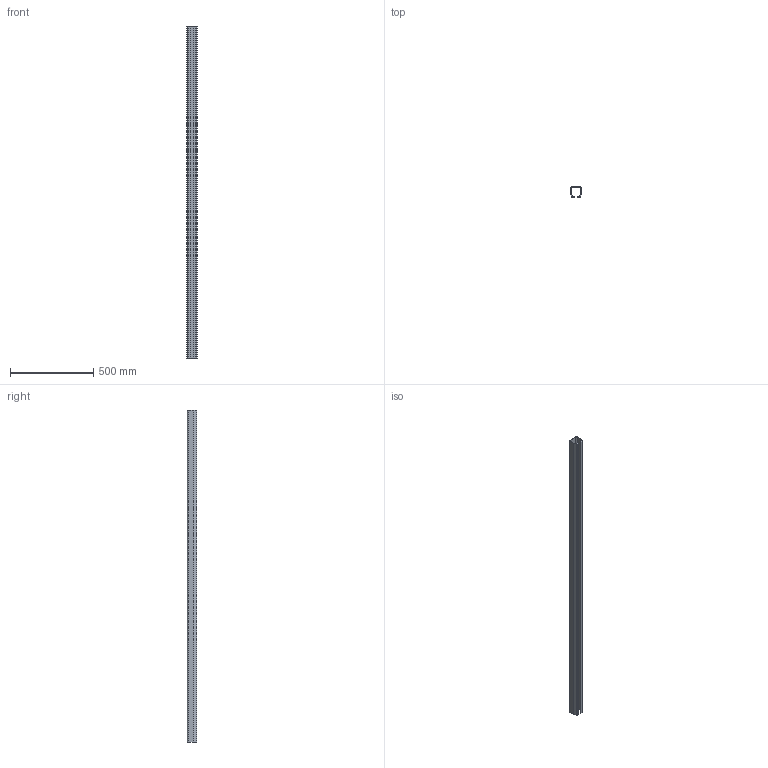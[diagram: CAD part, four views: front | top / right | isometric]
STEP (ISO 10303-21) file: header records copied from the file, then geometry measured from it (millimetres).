
FILE_DESCRIPTION(/* description */ ('Profilrohr Nr.3 - 2m'),/* implementation_level */ '2;1');
FILE_NAME(/* name */ 'C:\Users\avlesti\Desktop\Trace Part Bauteilefamilien\1 Tabelle Laufrohre 2 Meter\011337025.stp',/* time_stamp */ '2020-05-08T10:57:54+02:00',/* author */ ('avlesti'),/* organization */ (''),/* preprocessor_version */ 'ST-DEVELOPER v17.2',/* originating_system */ 'Autodesk Inventor 2019',/* authorisation */ '');
FILE_SCHEMA (('AUTOMOTIVE_DESIGN { 1 0 10303 214 3 1 1 }'));
Length unit declared in the file: millimetre
Products named in the file (1): 011337025
Bounding box: 65 x 60 x 2000 mm (x, y, z)
Volume: 1425359.4 mm3; surface area: 807692.9 mm2
Topology: 1 solids, 1 shells, 40 faces, 108 edges, 72 vertices
Faces by surface type: plane 28, cylinder 12
Entity records: 1297 total; most frequent: CARTESIAN_POINT 221, ORIENTED_EDGE 216, DIRECTION 214, EDGE_CURVE 108, LINE 84, VECTOR 84, VERTEX_POINT 72, AXIS2_PLACEMENT_3D 65
